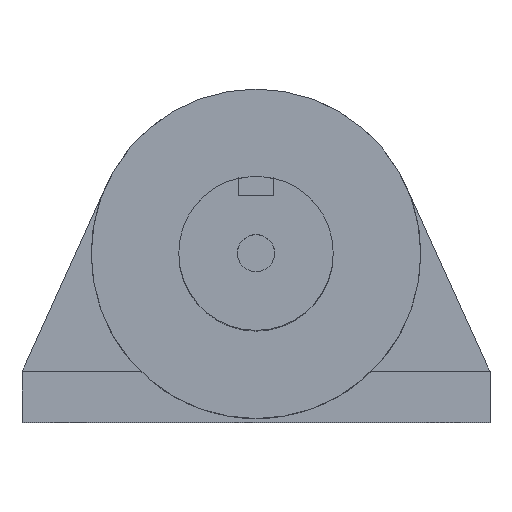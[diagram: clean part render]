
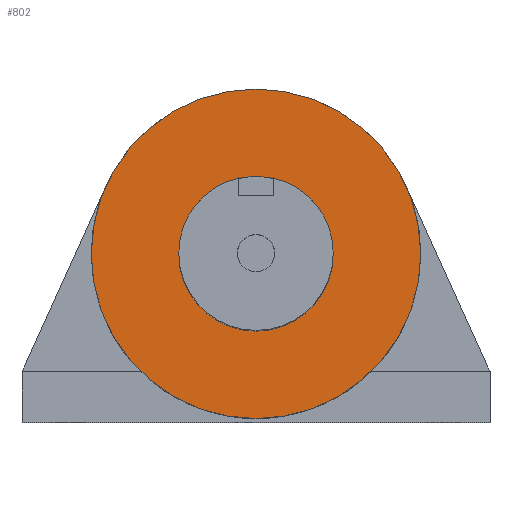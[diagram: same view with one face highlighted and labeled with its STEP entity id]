
A CAD part, top view. The second image highlights one B-rep face of the part: STEP entity #802.
In plain terms, the highlighted planar face has unit normal (0, 0, 1).
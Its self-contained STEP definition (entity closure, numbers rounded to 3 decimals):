
#38=CARTESIAN_POINT('',(0.,0.,280.));
#39=DIRECTION('',(0.,0.,-1.));
#40=DIRECTION('',(1.,0.,0.));
#41=AXIS2_PLACEMENT_3D('',#38,#39,#40);
#43=CARTESIAN_POINT('',(0.,0.,280.));
#44=DIRECTION('',(0.,0.,-1.));
#45=DIRECTION('',(-1.,0.,0.));
#46=AXIS2_PLACEMENT_3D('',#43,#44,#45);
#48=CARTESIAN_POINT('',(0.,0.,280.));
#49=DIRECTION('',(0.,0.,1.));
#50=DIRECTION('',(1.,0.,0.));
#51=AXIS2_PLACEMENT_3D('',#48,#49,#50);
#53=CARTESIAN_POINT('',(0.,0.,280.));
#54=DIRECTION('',(0.,0.,1.));
#55=DIRECTION('',(-1.,0.,0.));
#56=AXIS2_PLACEMENT_3D('',#53,#54,#55);
#647=CARTESIAN_POINT('',(-88.,0.,280.));
#649=VERTEX_POINT('',#647);
#667=CARTESIAN_POINT('',(88.,0.,280.));
#669=VERTEX_POINT('',#667);
#732=CARTESIAN_POINT('',(41.275,0.,280.));
#733=CARTESIAN_POINT('',(-41.275,0.,280.));
#734=VERTEX_POINT('',#732);
#735=VERTEX_POINT('',#733);
#786=CARTESIAN_POINT('',(0.,0.,280.));
#787=DIRECTION('',(0.,0.,1.));
#788=DIRECTION('',(1.,0.,0.));
#789=AXIS2_PLACEMENT_3D('',#786,#787,#788);
#790=PLANE('',#789);
#791=ORIENTED_EDGE('',*,*,#741,.F.);
#793=ORIENTED_EDGE('',*,*,#792,.F.);
#794=EDGE_LOOP('',(#791,#793));
#795=FACE_OUTER_BOUND('',#794,.F.);
#797=ORIENTED_EDGE('',*,*,#796,.F.);
#799=ORIENTED_EDGE('',*,*,#798,.F.);
#800=EDGE_LOOP('',(#797,#799));
#801=FACE_BOUND('',#800,.F.);
#802=ADVANCED_FACE('',(#795,#801),#790,.T.);
#42=CIRCLE('',#41,41.275);
#47=CIRCLE('',#46,41.275);
#52=CIRCLE('',#51,88.);
#57=CIRCLE('',#56,88.);
#741=EDGE_CURVE('',#669,#649,#52,.T.);
#792=EDGE_CURVE('',#649,#669,#57,.T.);
#796=EDGE_CURVE('',#734,#735,#42,.T.);
#798=EDGE_CURVE('',#735,#734,#47,.T.);
